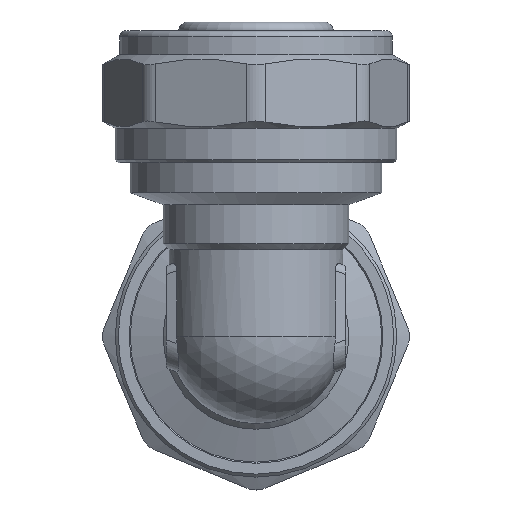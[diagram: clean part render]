
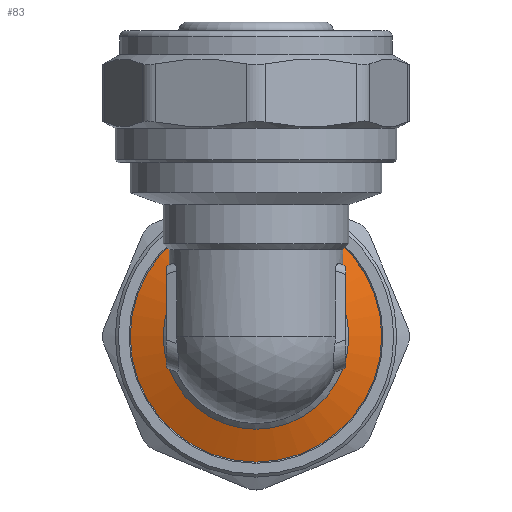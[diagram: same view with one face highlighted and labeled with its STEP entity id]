
A CAD part, front view. The second image highlights one B-rep face of the part: STEP entity #83.
In plain terms, the highlighted conical face has half-angle 70 degrees and reference radius 18.25 mm.
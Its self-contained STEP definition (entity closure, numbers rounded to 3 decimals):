
#83=ADVANCED_FACE('',(#1071,#1073),#1075,.T.);
#1071=FACE_OUTER_BOUND('',#1072,.T.);
#1072=EDGE_LOOP('',(#6491));
#1073=FACE_OUTER_BOUND('',#1074,.T.);
#1074=EDGE_LOOP('',(#6492));
#1075=CONICAL_SURFACE('',#1076,18.25,1.222);
#1076=AXIS2_PLACEMENT_3D('',#1077,#1078,#1079);
#1077=CARTESIAN_POINT('',(0.,22.999,0.));
#1078=DIRECTION('',(0.,1.,0.));
#1079=DIRECTION('',(-1.,0.,0.));
#6491=ORIENTED_EDGE('',*,*,#11467,.T.);
#6492=ORIENTED_EDGE('',*,*,#11313,.T.);
#11313=EDGE_CURVE('',#13336,#13336,#13337,.F.);
#11467=EDGE_CURVE('',#13636,#13636,#13637,.T.);
#13336=VERTEX_POINT('',#16792);
#13337=CIRCLE('',#16793,21.);
#13636=VERTEX_POINT('',#18110);
#13637=CIRCLE('',#18111,15.5);
#16792=CARTESIAN_POINT('',(-21.,24.,0.));
#16793=AXIS2_PLACEMENT_3D('',#16794,#16795,#16796);
#16794=CARTESIAN_POINT('',(0.,24.,0.));
#16795=DIRECTION('',(0.,1.,0.));
#16796=DIRECTION('',(-1.,0.,0.));
#18110=CARTESIAN_POINT('',(-15.5,21.998,0.));
#18111=AXIS2_PLACEMENT_3D('',#18112,#18113,#18114);
#18112=CARTESIAN_POINT('',(0.,21.998,0.));
#18113=DIRECTION('',(0.,1.,0.));
#18114=DIRECTION('',(-1.,0.,0.));
